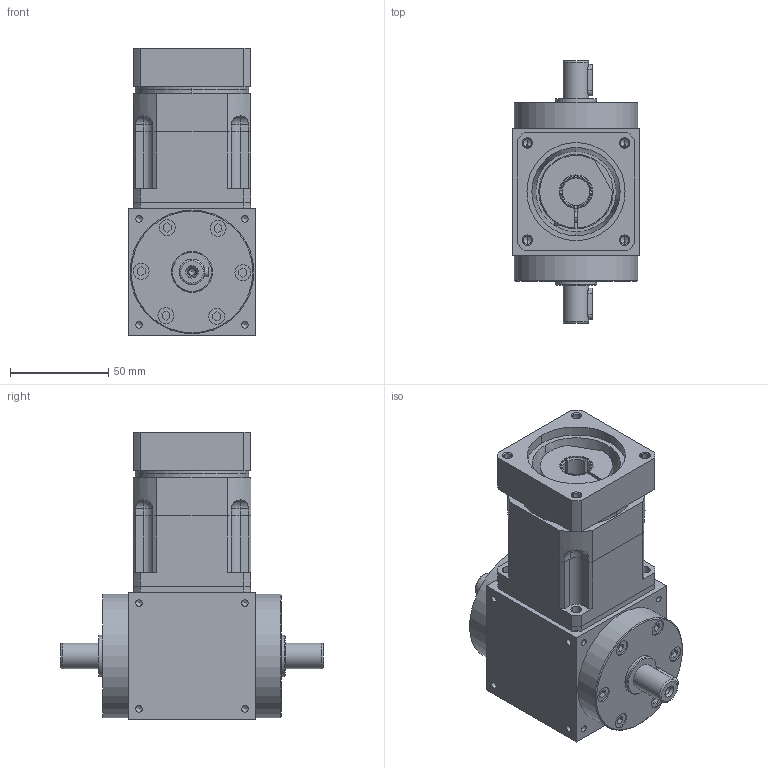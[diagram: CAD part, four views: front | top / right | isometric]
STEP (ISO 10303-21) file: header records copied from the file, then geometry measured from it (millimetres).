
FILE_DESCRIPTION(/* description */ (''),/* implementation_level */ '2;1');
FILE_NAME(/* name */ 'AT-065-FL(3-10)(14-50-70-M5).stp',/* time_stamp */ '2024-12-06T16:34:18+08:00',/* author */ (''),/* organization */ (''),/* preprocessor_version */ 'ST-DEVELOPER v16',/* originating_system */ 'SIEMENS PLM Software NX 10.0',/* authorisation */ '');
FILE_SCHEMA (('AP203_CONFIGURATION_CONTROLLED_3D_DESIGN_OF_MECHANICAL_PARTS_AND_ASSEMBLIES_MIM_LF { 1 0 10303 403 2 1 2}'));
Length unit declared in the file: millimetre
Products named in the file (1): AT-065-FL1_3-10__14-50-70-M4__stp
Bounding box: 65 x 134 x 146.5 mm (x, y, z)
Volume: 611803.4 mm3; surface area: 91069.3 mm2
Topology: 10 solids, 10 shells, 453 faces, 1214 edges, 785 vertices
Faces by surface type: plane 207, cylinder 178, cone 58, torus 6, sphere 4
Full cylindrical faces by diameter (mm): 3.3 x50, 4.5 x2, 5.5 x4, 8.133 x12, 13 x2, 21 x2, 30.347 x1, 50 x1, 63 x2
Entity records: 13511 total; most frequent: CARTESIAN_POINT 2702, DIRECTION 2299, ORIENTED_EDGE 2014, EDGE_CURVE 1007, AXIS2_PLACEMENT_3D 883, VERTEX_POINT 724, EDGE_LOOP 635, LINE 533
